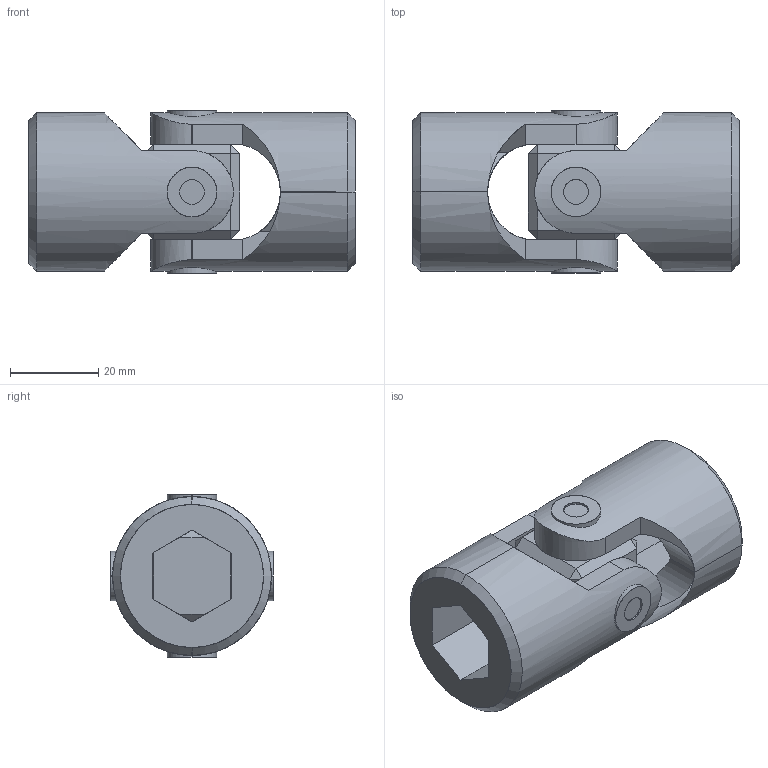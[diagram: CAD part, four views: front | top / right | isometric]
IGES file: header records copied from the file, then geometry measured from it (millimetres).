
Start section: SolidWorks IGES file using analytic representation for surfaces
Global section: file name: C:\Users\IanO\Desktop\R3690_v2\R3690_v2_20231020_IGES\R3690.018-HB.igs; native system: SolidWorks 2019; preprocessor: SolidWorks 2019; author: IanO; date: 231020.152738; units: millimetre
Bounding box: 74 x 36.72 x 36.72 mm (x, y, z)
Surface area: 20292.2 mm2 (no closed solid volume)
Topology: 0 solids, 0 shells, 112 faces, 2172 edges, 2172 vertices
Faces by surface type: bspline 68, revolution 44
